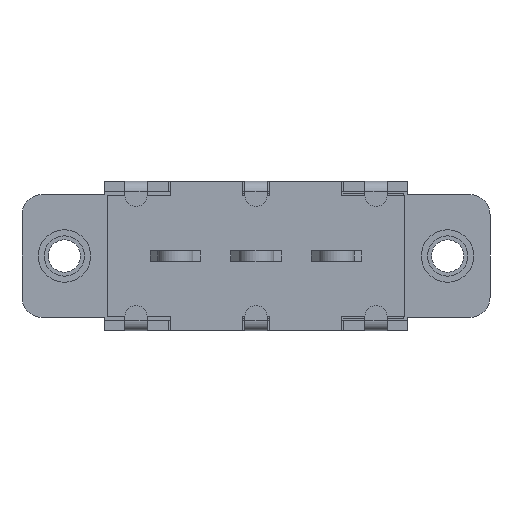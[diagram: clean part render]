
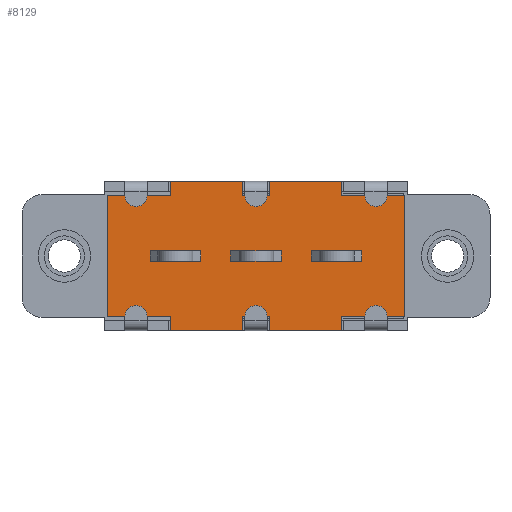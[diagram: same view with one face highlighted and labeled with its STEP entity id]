
A CAD part, front view. The second image highlights one B-rep face of the part: STEP entity #8129.
In plain terms, the highlighted planar face has unit normal (0, -1, 0).
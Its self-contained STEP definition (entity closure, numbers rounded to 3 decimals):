
#7252=DIRECTION('',(0.,0.,1.));
#7253=VECTOR('',#7252,6.);
#7254=CARTESIAN_POINT('',(-7.35,0.,-3.));
#7255=LINE('',#7254,#7253);
#7259=DIRECTION('',(1.,0.,0.));
#7260=VECTOR('',#7259,3.1);
#7261=CARTESIAN_POINT('',(-7.35,0.,3.));
#7262=LINE('',#7261,#7260);
#7266=DIRECTION('',(0.,0.,1.));
#7267=VECTOR('',#7266,0.7);
#7268=CARTESIAN_POINT('',(-4.25,0.,3.));
#7269=LINE('',#7268,#7267);
#7273=DIRECTION('',(1.,0.,0.));
#7274=VECTOR('',#7273,3.6);
#7275=CARTESIAN_POINT('',(-4.25,0.,3.7));
#7276=LINE('',#7275,#7274);
#7280=DIRECTION('',(0.,0.,-1.));
#7281=VECTOR('',#7280,0.7);
#7282=CARTESIAN_POINT('',(-0.65,0.,3.7));
#7283=LINE('',#7282,#7281);
#7287=DIRECTION('',(1.,0.,0.));
#7288=VECTOR('',#7287,1.3);
#7289=CARTESIAN_POINT('',(-0.65,0.,3.));
#7290=LINE('',#7289,#7288);
#7294=DIRECTION('',(0.,0.,1.));
#7295=VECTOR('',#7294,0.7);
#7296=CARTESIAN_POINT('',(0.65,0.,3.));
#7297=LINE('',#7296,#7295);
#7301=DIRECTION('',(1.,0.,0.));
#7302=VECTOR('',#7301,3.6);
#7303=CARTESIAN_POINT('',(0.65,0.,3.7));
#7304=LINE('',#7303,#7302);
#7308=DIRECTION('',(0.,0.,-1.));
#7309=VECTOR('',#7308,0.7);
#7310=CARTESIAN_POINT('',(4.25,0.,3.7));
#7311=LINE('',#7310,#7309);
#7315=DIRECTION('',(1.,0.,0.));
#7316=VECTOR('',#7315,3.1);
#7317=CARTESIAN_POINT('',(4.25,0.,3.));
#7318=LINE('',#7317,#7316);
#7322=DIRECTION('',(0.,0.,-1.));
#7323=VECTOR('',#7322,6.);
#7324=CARTESIAN_POINT('',(7.35,0.,3.));
#7325=LINE('',#7324,#7323);
#7329=DIRECTION('',(-1.,0.,0.));
#7330=VECTOR('',#7329,3.1);
#7331=CARTESIAN_POINT('',(7.35,0.,-3.));
#7332=LINE('',#7331,#7330);
#7336=DIRECTION('',(0.,0.,-1.));
#7337=VECTOR('',#7336,0.7);
#7338=CARTESIAN_POINT('',(4.25,0.,-3.));
#7339=LINE('',#7338,#7337);
#7343=DIRECTION('',(-1.,0.,0.));
#7344=VECTOR('',#7343,3.6);
#7345=CARTESIAN_POINT('',(4.25,0.,-3.7));
#7346=LINE('',#7345,#7344);
#7350=DIRECTION('',(0.,0.,1.));
#7351=VECTOR('',#7350,0.7);
#7352=CARTESIAN_POINT('',(0.65,0.,-3.7));
#7353=LINE('',#7352,#7351);
#7357=DIRECTION('',(-1.,0.,0.));
#7358=VECTOR('',#7357,1.3);
#7359=CARTESIAN_POINT('',(0.65,0.,-3.));
#7360=LINE('',#7359,#7358);
#7364=DIRECTION('',(0.,0.,-1.));
#7365=VECTOR('',#7364,0.7);
#7366=CARTESIAN_POINT('',(-0.65,0.,-3.));
#7367=LINE('',#7366,#7365);
#7371=DIRECTION('',(-1.,0.,0.));
#7372=VECTOR('',#7371,3.6);
#7373=CARTESIAN_POINT('',(-0.65,0.,-3.7));
#7374=LINE('',#7373,#7372);
#7378=DIRECTION('',(0.,0.,1.));
#7379=VECTOR('',#7378,0.7);
#7380=CARTESIAN_POINT('',(-4.25,0.,-3.7));
#7381=LINE('',#7380,#7379);
#7385=DIRECTION('',(-1.,0.,0.));
#7386=VECTOR('',#7385,3.1);
#7387=CARTESIAN_POINT('',(-4.25,0.,-3.));
#7388=LINE('',#7387,#7386);
#7392=DIRECTION('',(0.,0.,1.));
#7393=VECTOR('',#7392,0.5);
#7394=CARTESIAN_POINT('',(-1.25,0.,-0.25));
#7395=LINE('',#7394,#7393);
#7399=DIRECTION('',(-1.,0.,0.));
#7400=VECTOR('',#7399,2.5);
#7401=CARTESIAN_POINT('',(1.25,0.,-0.25));
#7402=LINE('',#7401,#7400);
#7406=DIRECTION('',(0.,0.,-1.));
#7407=VECTOR('',#7406,0.5);
#7408=CARTESIAN_POINT('',(1.25,0.,0.25));
#7409=LINE('',#7408,#7407);
#7413=DIRECTION('',(1.,0.,0.));
#7414=VECTOR('',#7413,2.5);
#7415=CARTESIAN_POINT('',(-1.25,0.,0.25));
#7416=LINE('',#7415,#7414);
#7420=DIRECTION('',(0.,0.,1.));
#7421=VECTOR('',#7420,0.5);
#7422=CARTESIAN_POINT('',(2.75,0.,-0.25));
#7423=LINE('',#7422,#7421);
#7427=DIRECTION('',(-1.,0.,0.));
#7428=VECTOR('',#7427,2.5);
#7429=CARTESIAN_POINT('',(5.25,0.,-0.25));
#7430=LINE('',#7429,#7428);
#7434=DIRECTION('',(0.,0.,-1.));
#7435=VECTOR('',#7434,0.5);
#7436=CARTESIAN_POINT('',(5.25,0.,0.25));
#7437=LINE('',#7436,#7435);
#7441=DIRECTION('',(1.,0.,0.));
#7442=VECTOR('',#7441,2.5);
#7443=CARTESIAN_POINT('',(2.75,0.,0.25));
#7444=LINE('',#7443,#7442);
#7448=DIRECTION('',(-1.,0.,0.));
#7449=VECTOR('',#7448,2.5);
#7450=CARTESIAN_POINT('',(-2.75,0.,-0.25));
#7451=LINE('',#7450,#7449);
#7455=DIRECTION('',(0.,0.,-1.));
#7456=VECTOR('',#7455,0.5);
#7457=CARTESIAN_POINT('',(-2.75,0.,0.25));
#7458=LINE('',#7457,#7456);
#7462=DIRECTION('',(1.,0.,0.));
#7463=VECTOR('',#7462,2.5);
#7464=CARTESIAN_POINT('',(-5.25,0.,0.25));
#7465=LINE('',#7464,#7463);
#7469=DIRECTION('',(0.,0.,1.));
#7470=VECTOR('',#7469,0.5);
#7471=CARTESIAN_POINT('',(-5.25,0.,-0.25));
#7472=LINE('',#7471,#7470);
#7924=CARTESIAN_POINT('',(-7.35,0.,-3.));
#7925=CARTESIAN_POINT('',(-7.35,0.,3.));
#7926=VERTEX_POINT('',#7924);
#7927=VERTEX_POINT('',#7925);
#7928=CARTESIAN_POINT('',(-4.25,0.,3.));
#7929=VERTEX_POINT('',#7928);
#7930=CARTESIAN_POINT('',(-4.25,0.,3.7));
#7931=VERTEX_POINT('',#7930);
#7932=CARTESIAN_POINT('',(-0.65,0.,3.7));
#7933=VERTEX_POINT('',#7932);
#7934=CARTESIAN_POINT('',(-0.65,0.,3.));
#7935=VERTEX_POINT('',#7934);
#7936=CARTESIAN_POINT('',(0.65,0.,3.));
#7937=VERTEX_POINT('',#7936);
#7938=CARTESIAN_POINT('',(0.65,0.,3.7));
#7939=VERTEX_POINT('',#7938);
#7940=CARTESIAN_POINT('',(4.25,0.,3.7));
#7941=VERTEX_POINT('',#7940);
#7942=CARTESIAN_POINT('',(4.25,0.,3.));
#7943=VERTEX_POINT('',#7942);
#7944=CARTESIAN_POINT('',(7.35,0.,3.));
#7945=VERTEX_POINT('',#7944);
#7946=CARTESIAN_POINT('',(7.35,0.,-3.));
#7947=VERTEX_POINT('',#7946);
#7948=CARTESIAN_POINT('',(4.25,0.,-3.));
#7949=VERTEX_POINT('',#7948);
#7950=CARTESIAN_POINT('',(4.25,0.,-3.7));
#7951=VERTEX_POINT('',#7950);
#7952=CARTESIAN_POINT('',(0.65,0.,-3.7));
#7953=VERTEX_POINT('',#7952);
#7954=CARTESIAN_POINT('',(0.65,0.,-3.));
#7955=VERTEX_POINT('',#7954);
#7956=CARTESIAN_POINT('',(-0.65,0.,-3.));
#7957=VERTEX_POINT('',#7956);
#7958=CARTESIAN_POINT('',(-0.65,0.,-3.7));
#7959=VERTEX_POINT('',#7958);
#7960=CARTESIAN_POINT('',(-4.25,0.,-3.7));
#7961=VERTEX_POINT('',#7960);
#7962=CARTESIAN_POINT('',(-4.25,0.,-3.));
#7963=VERTEX_POINT('',#7962);
#8004=CARTESIAN_POINT('',(-1.25,0.,-0.25));
#8005=CARTESIAN_POINT('',(-1.25,0.,0.25));
#8006=VERTEX_POINT('',#8004);
#8007=VERTEX_POINT('',#8005);
#8008=CARTESIAN_POINT('',(1.25,0.,0.25));
#8009=VERTEX_POINT('',#8008);
#8010=CARTESIAN_POINT('',(1.25,0.,-0.25));
#8011=VERTEX_POINT('',#8010);
#8012=CARTESIAN_POINT('',(2.75,0.,-0.25));
#8013=CARTESIAN_POINT('',(2.75,0.,0.25));
#8014=VERTEX_POINT('',#8012);
#8015=VERTEX_POINT('',#8013);
#8016=CARTESIAN_POINT('',(5.25,0.,0.25));
#8017=VERTEX_POINT('',#8016);
#8018=CARTESIAN_POINT('',(5.25,0.,-0.25));
#8019=VERTEX_POINT('',#8018);
#8020=CARTESIAN_POINT('',(-2.75,0.,-0.25));
#8021=CARTESIAN_POINT('',(-5.25,0.,-0.25));
#8022=VERTEX_POINT('',#8020);
#8023=VERTEX_POINT('',#8021);
#8024=CARTESIAN_POINT('',(-5.25,0.,0.25));
#8025=VERTEX_POINT('',#8024);
#8026=CARTESIAN_POINT('',(-2.75,0.,0.25));
#8027=VERTEX_POINT('',#8026);
#8052=CARTESIAN_POINT('',(0.,0.,0.));
#8053=DIRECTION('',(0.,1.,0.));
#8054=DIRECTION('',(1.,0.,0.));
#8055=AXIS2_PLACEMENT_3D('',#8052,#8053,#8054);
#8056=PLANE('',#8055);
#8058=ORIENTED_EDGE('',*,*,#8057,.T.);
#8060=ORIENTED_EDGE('',*,*,#8059,.T.);
#8062=ORIENTED_EDGE('',*,*,#8061,.T.);
#8064=ORIENTED_EDGE('',*,*,#8063,.T.);
#8066=ORIENTED_EDGE('',*,*,#8065,.T.);
#8068=ORIENTED_EDGE('',*,*,#8067,.T.);
#8070=ORIENTED_EDGE('',*,*,#8069,.T.);
#8072=ORIENTED_EDGE('',*,*,#8071,.T.);
#8074=ORIENTED_EDGE('',*,*,#8073,.T.);
#8076=ORIENTED_EDGE('',*,*,#8075,.T.);
#8078=ORIENTED_EDGE('',*,*,#8077,.T.);
#8080=ORIENTED_EDGE('',*,*,#8079,.T.);
#8082=ORIENTED_EDGE('',*,*,#8081,.T.);
#8084=ORIENTED_EDGE('',*,*,#8083,.T.);
#8086=ORIENTED_EDGE('',*,*,#8085,.T.);
#8088=ORIENTED_EDGE('',*,*,#8087,.T.);
#8090=ORIENTED_EDGE('',*,*,#8089,.T.);
#8092=ORIENTED_EDGE('',*,*,#8091,.T.);
#8094=ORIENTED_EDGE('',*,*,#8093,.T.);
#8096=ORIENTED_EDGE('',*,*,#8095,.T.);
#8097=EDGE_LOOP('',(#8058,#8060,#8062,#8064,#8066,#8068,#8070,#8072,#8074,#8076,
#8078,#8080,#8082,#8084,#8086,#8088,#8090,#8092,#8094,#8096));
#8098=FACE_OUTER_BOUND('',#8097,.F.);
#8100=ORIENTED_EDGE('',*,*,#8099,.F.);
#8102=ORIENTED_EDGE('',*,*,#8101,.F.);
#8104=ORIENTED_EDGE('',*,*,#8103,.F.);
#8106=ORIENTED_EDGE('',*,*,#8105,.F.);
#8107=EDGE_LOOP('',(#8100,#8102,#8104,#8106));
#8108=FACE_BOUND('',#8107,.F.);
#8110=ORIENTED_EDGE('',*,*,#8109,.F.);
#8112=ORIENTED_EDGE('',*,*,#8111,.F.);
#8114=ORIENTED_EDGE('',*,*,#8113,.F.);
#8116=ORIENTED_EDGE('',*,*,#8115,.F.);
#8117=EDGE_LOOP('',(#8110,#8112,#8114,#8116));
#8118=FACE_BOUND('',#8117,.F.);
#8120=ORIENTED_EDGE('',*,*,#8119,.F.);
#8122=ORIENTED_EDGE('',*,*,#8121,.F.);
#8124=ORIENTED_EDGE('',*,*,#8123,.F.);
#8126=ORIENTED_EDGE('',*,*,#8125,.F.);
#8127=EDGE_LOOP('',(#8120,#8122,#8124,#8126));
#8128=FACE_BOUND('',#8127,.F.);
#8057=EDGE_CURVE('',#7926,#7927,#7255,.T.);
#8059=EDGE_CURVE('',#7927,#7929,#7262,.T.);
#8061=EDGE_CURVE('',#7929,#7931,#7269,.T.);
#8063=EDGE_CURVE('',#7931,#7933,#7276,.T.);
#8065=EDGE_CURVE('',#7933,#7935,#7283,.T.);
#8067=EDGE_CURVE('',#7935,#7937,#7290,.T.);
#8069=EDGE_CURVE('',#7937,#7939,#7297,.T.);
#8071=EDGE_CURVE('',#7939,#7941,#7304,.T.);
#8073=EDGE_CURVE('',#7941,#7943,#7311,.T.);
#8075=EDGE_CURVE('',#7943,#7945,#7318,.T.);
#8077=EDGE_CURVE('',#7945,#7947,#7325,.T.);
#8079=EDGE_CURVE('',#7947,#7949,#7332,.T.);
#8081=EDGE_CURVE('',#7949,#7951,#7339,.T.);
#8083=EDGE_CURVE('',#7951,#7953,#7346,.T.);
#8085=EDGE_CURVE('',#7953,#7955,#7353,.T.);
#8087=EDGE_CURVE('',#7955,#7957,#7360,.T.);
#8089=EDGE_CURVE('',#7957,#7959,#7367,.T.);
#8091=EDGE_CURVE('',#7959,#7961,#7374,.T.);
#8093=EDGE_CURVE('',#7961,#7963,#7381,.T.);
#8095=EDGE_CURVE('',#7963,#7926,#7388,.T.);
#8099=EDGE_CURVE('',#8006,#8007,#7395,.T.);
#8101=EDGE_CURVE('',#8011,#8006,#7402,.T.);
#8103=EDGE_CURVE('',#8009,#8011,#7409,.T.);
#8105=EDGE_CURVE('',#8007,#8009,#7416,.T.);
#8109=EDGE_CURVE('',#8014,#8015,#7423,.T.);
#8111=EDGE_CURVE('',#8019,#8014,#7430,.T.);
#8113=EDGE_CURVE('',#8017,#8019,#7437,.T.);
#8115=EDGE_CURVE('',#8015,#8017,#7444,.T.);
#8119=EDGE_CURVE('',#8022,#8023,#7451,.T.);
#8121=EDGE_CURVE('',#8027,#8022,#7458,.T.);
#8123=EDGE_CURVE('',#8025,#8027,#7465,.T.);
#8125=EDGE_CURVE('',#8023,#8025,#7472,.T.);
#8129=ADVANCED_FACE('',(#8098,#8108,#8118,#8128),#8056,.F.);
